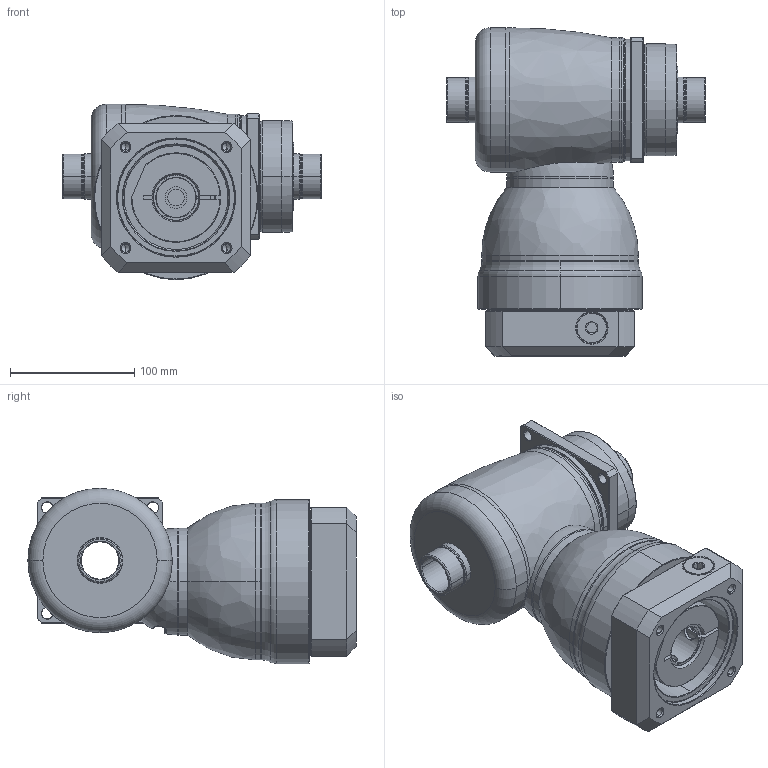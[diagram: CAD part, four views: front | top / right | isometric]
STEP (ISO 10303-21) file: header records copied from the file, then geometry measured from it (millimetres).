
FILE_DESCRIPTION((''),'2;1');
FILE_NAME('KF100_S4_1ST_32-P0409700101_ASM','2016-07-20T',('d01943'),(''),'PRO/ENGINEER BY PARAMETRIC TECHNOLOGY CORPORATION, 2008410','PRO/ENGINEER BY PARAMETRIC TECHNOLOGY CORPORATION, 2008410','');
FILE_SCHEMA(('CONFIG_CONTROL_DESIGN'));
Length unit declared in the file: millimetre
Products named in the file (11): P1008400002; P1804400001; P0914400001; P1315400001; P1007400001; P1318400301; P0409700101; P0503700010; P0912403001; 21711418017; KF100_S4_1ST_32-P0409700101_ASM
Assembly tree (10 placements, depth 2):
  KF100_S4_1ST_32-P0409700101_ASM
    P1008400002
    P1804400001
    P0914400001
    P1315400001
    P1007400001
    P1318400301
    P0409700101
    P0503700010
    P0912403001
    21711418017
Bounding box: 208.3 x 264 x 141 mm (x, y, z)
Volume: 2532141.7 mm3; surface area: 390027.7 mm2
Topology: 11 solids, 11 shells, 507 faces, 1122 edges, 662 vertices
Faces by surface type: cylinder 172, cone 128, plane 103, torus 66, bspline 36, sphere 2
Entity records: 19842 total; most frequent: CARTESIAN_POINT 8448, DIRECTION 2508, ORIENTED_EDGE 2208, EDGE_CURVE 1104, AXIS2_PLACEMENT_3D 1066, VERTEX_POINT 662, EDGE_LOOP 580, CIRCLE 574
